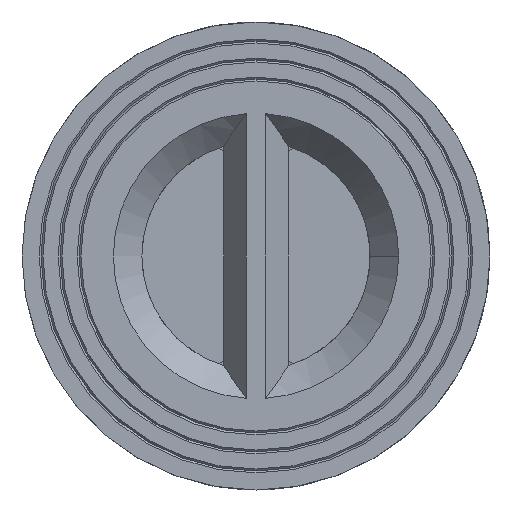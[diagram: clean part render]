
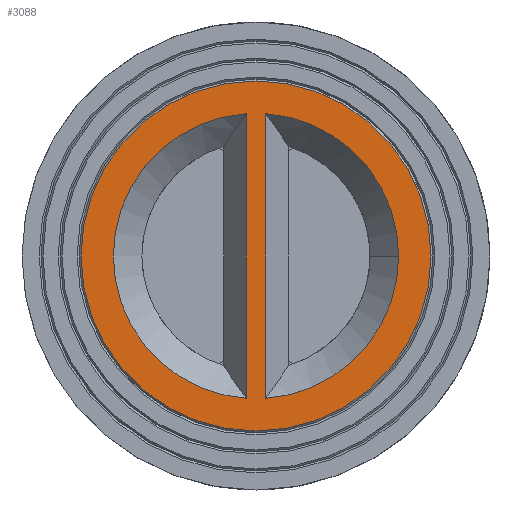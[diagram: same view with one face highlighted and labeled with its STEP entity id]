
A CAD part, front view. The second image highlights one B-rep face of the part: STEP entity #3088.
In plain terms, the highlighted planar face has unit normal (0, -1, 0).
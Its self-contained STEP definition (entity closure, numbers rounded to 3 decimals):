
#68 = EDGE_CURVE ( 'NONE', #7826, #4572, #1485, .T. ) ;
#288 = CARTESIAN_POINT ( 'NONE',  ( 2774.867, 1200.726, -37.417 ) ) ;
#351 = VECTOR ( 'NONE', #7637, 1000. ) ;
#478 = DIRECTION ( 'NONE',  ( 0., 1., 0. ) ) ;
#595 = EDGE_CURVE ( 'NONE', #4572, #7826, #845, .T. ) ;
#752 = DIRECTION ( 'NONE',  ( 0., 1., 0. ) ) ;
#845 = LINE ( 'NONE', #4331, #351 ) ;
#872 = CARTESIAN_POINT ( 'NONE',  ( 2777.367, 1200.726, 0. ) ) ;
#1111 = CARTESIAN_POINT ( 'NONE',  ( 2779.867, 1200.726, -37.417 ) ) ;
#1181 = FACE_OUTER_BOUND ( 'NONE', #4870, .T. ) ;
#1371 = ORIENTED_EDGE ( 'NONE', *, *, #595, .T. ) ;
#1408 = EDGE_CURVE ( 'NONE', #4015, #2966, #6039, .T. ) ;
#1485 = CIRCLE ( 'NONE', #7437, 37.5 ) ;
#1936 = DIRECTION ( 'NONE',  ( -1., 0., 0. ) ) ;
#2000 = AXIS2_PLACEMENT_3D ( 'NONE', #7723, #10098, #6865 ) ;
#2025 = VERTEX_POINT ( 'NONE', #7594 ) ;
#2277 = ORIENTED_EDGE ( 'NONE', *, *, #5304, .F. ) ;
#2304 = VERTEX_POINT ( 'NONE', #1111 ) ;
#2500 = DIRECTION ( 'NONE',  ( -1., 0., 0. ) ) ;
#2814 = FACE_BOUND ( 'NONE', #8660, .T. ) ;
#2966 = VERTEX_POINT ( 'NONE', #7874 ) ;
#3088 = ADVANCED_FACE ( 'NONE', ( #2814, #7818, #1181 ), #6195, .T. ) ;
#3185 = CARTESIAN_POINT ( 'NONE',  ( 2777.367, 1200.726, 0. ) ) ;
#3295 = VECTOR ( 'NONE', #3717, 1000. ) ;
#3462 = CARTESIAN_POINT ( 'NONE',  ( 2777.367, 1200.726, 0. ) ) ;
#3717 = DIRECTION ( 'NONE',  ( 0., 0., -1. ) ) ;
#3867 = CARTESIAN_POINT ( 'NONE',  ( 2774.867, 1200.726, 37.417 ) ) ;
#3977 = AXIS2_PLACEMENT_3D ( 'NONE', #3185, #752, #9567 ) ;
#3985 = ORIENTED_EDGE ( 'NONE', *, *, #1408, .F. ) ;
#4015 = VERTEX_POINT ( 'NONE', #5611 ) ;
#4331 = CARTESIAN_POINT ( 'NONE',  ( 2774.867, 1200.726, 37.5 ) ) ;
#4572 = VERTEX_POINT ( 'NONE', #3867 ) ;
#4870 = EDGE_LOOP ( 'NONE', ( #3985, #2277 ) ) ;
#5304 = EDGE_CURVE ( 'NONE', #2966, #4015, #5800, .T. ) ;
#5341 = CARTESIAN_POINT ( 'NONE',  ( 2779.867, 1200.726, 37.5 ) ) ;
#5418 = LINE ( 'NONE', #5341, #3295 ) ;
#5611 = CARTESIAN_POINT ( 'NONE',  ( 2731.367, 1200.726, 0. ) ) ;
#5671 = VERTEX_POINT ( 'NONE', #10150 ) ;
#5695 = EDGE_CURVE ( 'NONE', #5671, #2304, #5418, .T. ) ;
#5800 = CIRCLE ( 'NONE', #3977, 46. ) ;
#6039 = CIRCLE ( 'NONE', #8738, 46. ) ;
#6122 = CARTESIAN_POINT ( 'NONE',  ( 2777.367, 1200.726, 0. ) ) ;
#6162 = DIRECTION ( 'NONE',  ( 0., -1., 0. ) ) ;
#6195 = PLANE ( 'NONE',  #8818 ) ;
#6456 = DIRECTION ( 'NONE',  ( 0., 1., 0. ) ) ;
#6723 = DIRECTION ( 'NONE',  ( 0., 1., 0. ) ) ;
#6865 = DIRECTION ( 'NONE',  ( -1., 0., 0. ) ) ;
#6893 = DIRECTION ( 'NONE',  ( -1., 0., 0. ) ) ;
#7073 = CIRCLE ( 'NONE', #7086, 37.5 ) ;
#7086 = AXIS2_PLACEMENT_3D ( 'NONE', #872, #6456, #2500 ) ;
#7170 = ORIENTED_EDGE ( 'NONE', *, *, #8363, .T. ) ;
#7437 = AXIS2_PLACEMENT_3D ( 'NONE', #3462, #6723, #1936 ) ;
#7499 = ORIENTED_EDGE ( 'NONE', *, *, #10264, .T. ) ;
#7594 = CARTESIAN_POINT ( 'NONE',  ( 2814.867, 1200.726, 0. ) ) ;
#7637 = DIRECTION ( 'NONE',  ( 0., 0., -1. ) ) ;
#7723 = CARTESIAN_POINT ( 'NONE',  ( 2777.367, 1200.726, 0. ) ) ;
#7818 = FACE_BOUND ( 'NONE', #10180, .T. ) ;
#7826 = VERTEX_POINT ( 'NONE', #288 ) ;
#7874 = CARTESIAN_POINT ( 'NONE',  ( 2823.367, 1200.726, 0. ) ) ;
#8144 = CIRCLE ( 'NONE', #2000, 37.5 ) ;
#8363 = EDGE_CURVE ( 'NONE', #5671, #2025, #7073, .T. ) ;
#8397 = ORIENTED_EDGE ( 'NONE', *, *, #68, .T. ) ;
#8660 = EDGE_LOOP ( 'NONE', ( #9761, #7170, #7499 ) ) ;
#8738 = AXIS2_PLACEMENT_3D ( 'NONE', #6122, #478, #6893 ) ;
#8818 = AXIS2_PLACEMENT_3D ( 'NONE', #10123, #6162, #10201 ) ;
#9567 = DIRECTION ( 'NONE',  ( -1., 0., 0. ) ) ;
#9761 = ORIENTED_EDGE ( 'NONE', *, *, #5695, .F. ) ;
#10098 = DIRECTION ( 'NONE',  ( 0., 1., 0. ) ) ;
#10123 = CARTESIAN_POINT ( 'NONE',  ( 0., 1200.726, 0. ) ) ;
#10150 = CARTESIAN_POINT ( 'NONE',  ( 2779.867, 1200.726, 37.417 ) ) ;
#10180 = EDGE_LOOP ( 'NONE', ( #1371, #8397 ) ) ;
#10201 = DIRECTION ( 'NONE',  ( 1., 0., 0. ) ) ;
#10264 = EDGE_CURVE ( 'NONE', #2025, #2304, #8144, .T. ) ;
